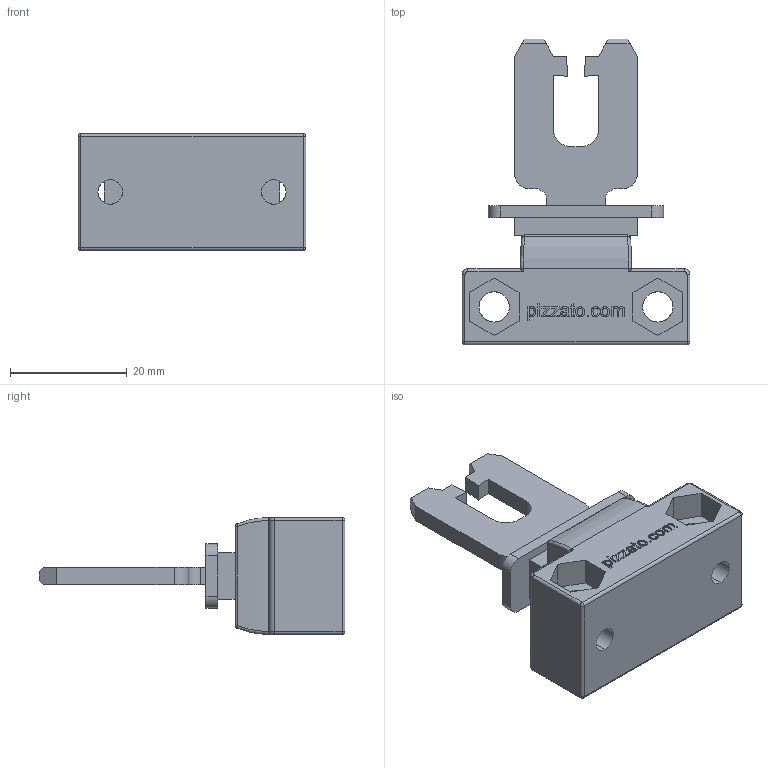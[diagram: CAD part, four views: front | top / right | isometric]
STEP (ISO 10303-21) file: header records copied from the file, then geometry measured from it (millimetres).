
FILE_DESCRIPTION (( 'STEP AP203' ), '1' );
FILE_NAME ('Pizzato_VF_KEYF28.step', '2009-01-30T01:14:31', ( 'Pizzato Elettrica Srl' ), ( '' ), 'SwSTEP 2.0', 'SolidWorks 2008', '' );
FILE_SCHEMA (( 'CONFIG_CONTROL_DESIGN' ));
Length unit declared in the file: millimetre
Products named in the file (3): Pizzato_VF_KEYFxx_Base; Pizzato_VF_KEYF28_chiave; Pizzato_VF_KEYF28
Assembly tree (2 placements, depth 2):
  Pizzato_VF_KEYF28
    Pizzato_VF_KEYF28_chiave
    Pizzato_VF_KEYFxx_Base
Bounding box: 39 x 52.35 x 20 mm (x, y, z)
Volume: 12795.1 mm3; surface area: 6947.6 mm2
Topology: 2 solids, 2 shells, 320 faces, 839 edges, 538 vertices
Faces by surface type: plane 187, bspline 73, cylinder 44, sphere 8, torus 8
Entity records: 13662 total; most frequent: CARTESIAN_POINT 5971, ORIENTED_EDGE 1662, DIRECTION 1261, EDGE_CURVE 831, VECTOR 589, LINE 589, VERTEX_POINT 538, EDGE_LOOP 355
